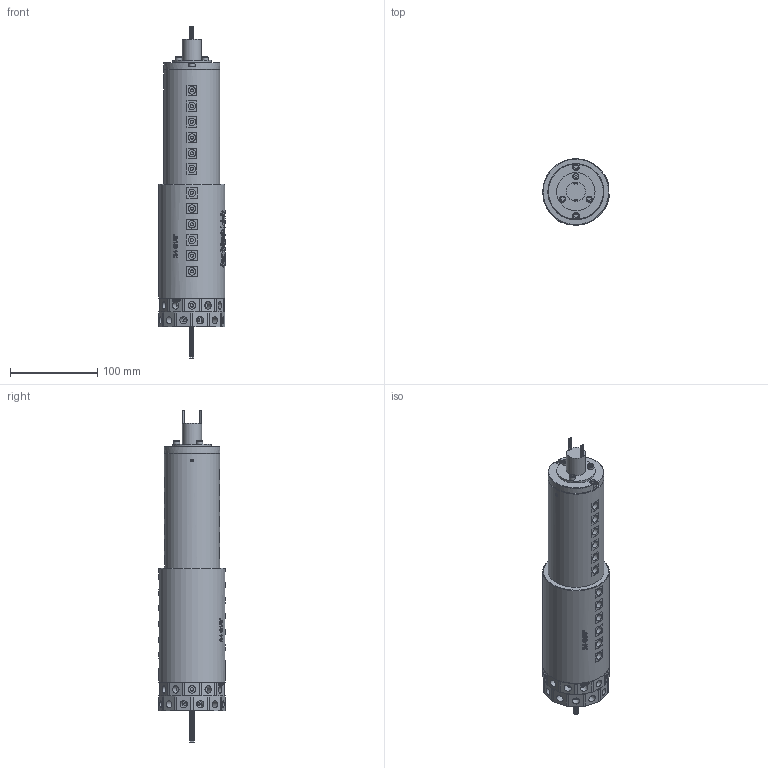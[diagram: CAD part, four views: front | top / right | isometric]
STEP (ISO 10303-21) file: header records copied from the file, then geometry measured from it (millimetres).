
FILE_DESCRIPTION(/* description */ (''),/* implementation_level */ '2;1');
FILE_NAME(/* name */ 'HQ2401-18M.stp',/* time_stamp */ '2025-09-23T11:44:55+08:00',/* author */ (''),/* organization */ (''),/* preprocessor_version */ 'ST-DEVELOPER v16.7',/* originating_system */ 'SIEMENS PLM Software NX 12.0',/* authorisation */ '');
FILE_SCHEMA (('AUTOMOTIVE_DESIGN { 1 0 10303 214 3 1 1 1 }'));
Products named in the file (1): Admi8A8072AE0usj
Bounding box: 76.35 x 76 x 380.7 mm (x, y, z)
Volume: 1164039.4 mm3; surface area: 110828.6 mm2
Topology: 1 solids, 5 shells, 1639 faces, 4011 edges, 2664 vertices
Faces by surface type: plane 925, cylinder 340, extrusion 337, bspline 26, cone 6, torus 5
Full cylindrical faces by diameter (mm): 0.8 x36, 3.4 x8, 3.5 x24, 4 x51, 4.1 x24, 4.2 x24, 5.5 x3, 7 x5, 8 x1, 8.5 x48, 22 x2, 44 x1, 52 x1, 64 x2, 76 x1
Entity records: 54842 total; most frequent: CARTESIAN_POINT 19990, ORIENTED_EDGE 7240, DIRECTION 5969, EDGE_CURVE 3620, VERTEX_POINT 2538, EDGE_LOOP 2194, AXIS2_PLACEMENT_3D 2127, B_SPLINE_CURVE_WITH_KNOTS 1717
